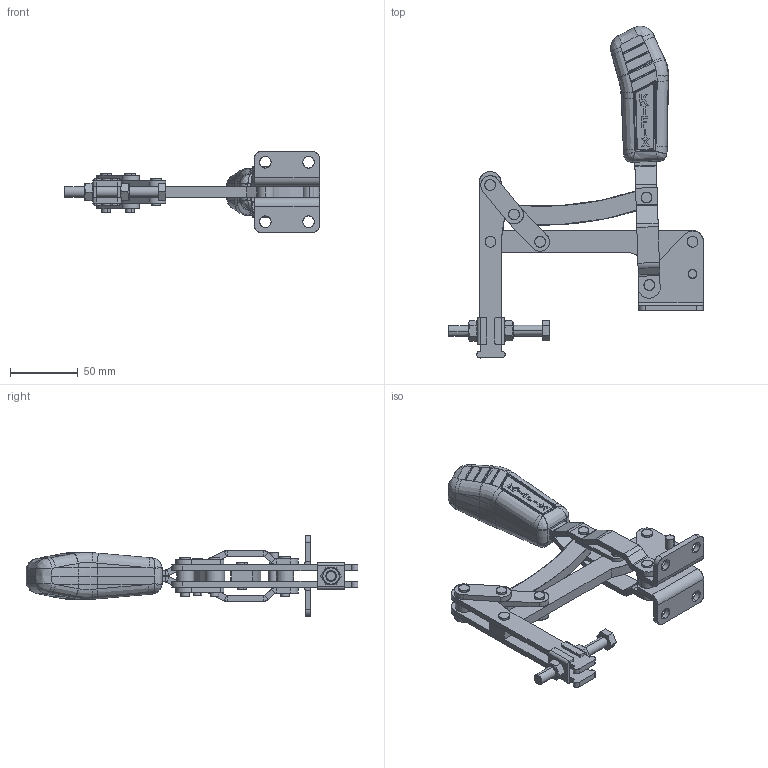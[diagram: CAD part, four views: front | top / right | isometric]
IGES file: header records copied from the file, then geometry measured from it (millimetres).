
Start section: SolidWorks IGES file using analytic representation for surfaces
Global section: file name: C:\Projetos\Grampos\KF-011\KF-011 DS A\KF-011 DS A.IGS; native system: SolidWorks 2013; preprocessor: SolidWorks 2013; author: Ricardo; date: 140905.092419; units: millimetre
Bounding box: 189.24 x 245.85 x 60 mm (x, y, z)
Surface area: 93004.4 mm2 (no closed solid volume)
Topology: 0 solids, 0 shells, 861 faces, 10614 edges, 10591 vertices
Faces by surface type: bspline 515, revolution 346
